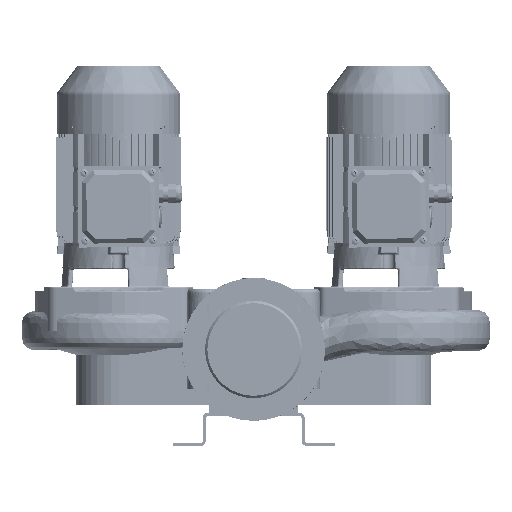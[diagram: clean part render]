
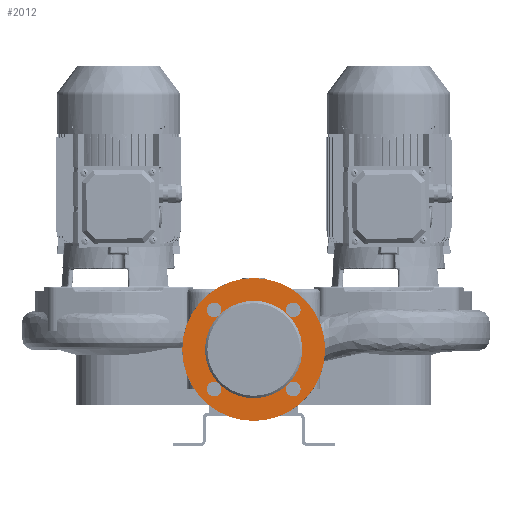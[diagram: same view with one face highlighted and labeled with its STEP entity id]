
A CAD part, front view. The second image highlights one B-rep face of the part: STEP entity #2012.
In plain terms, the highlighted planar face has unit normal (0, -1, 0) as drawn and (0, 1, 0) by its records, which use the part's own axes.
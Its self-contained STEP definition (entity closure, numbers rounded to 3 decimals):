
#2012=ADVANCED_FACE('',(#3863,#3864),#3865,.T.);
#2144=EDGE_CURVE('',#4088,#4089,#4090,.T.);
#2146=EDGE_CURVE('',#4092,#4088,#4093,.T.);
#2148=EDGE_CURVE('',#4095,#4092,#4096,.T.);
#2152=EDGE_CURVE('',#4102,#4103,#4104,.T.);
#2156=EDGE_CURVE('',#4110,#4111,#4112,.T.);
#2160=EDGE_CURVE('',#4118,#4119,#4120,.T.);
#2164=EDGE_CURVE('',#4126,#4127,#4128,.T.);
#2168=EDGE_CURVE('',#4134,#4135,#4136,.T.);
#2294=EDGE_CURVE('',#4135,#4134,#4328,.T.);
#2298=EDGE_CURVE('',#4092,#4126,#4332,.T.);
#2300=EDGE_CURVE('',#4127,#4092,#4334,.T.);
#2302=EDGE_CURVE('',#4088,#4118,#4336,.T.);
#2304=EDGE_CURVE('',#4119,#4088,#4338,.T.);
#2306=EDGE_CURVE('',#4340,#4110,#4341,.T.);
#2308=EDGE_CURVE('',#4111,#4340,#4343,.T.);
#2310=EDGE_CURVE('',#4345,#4102,#4346,.T.);
#2312=EDGE_CURVE('',#4103,#4345,#4348,.T.);
#2314=EDGE_CURVE('',#4089,#4340,#4350,.T.);
#2316=EDGE_CURVE('',#4340,#4345,#4352,.T.);
#2318=EDGE_CURVE('',#4345,#4095,#4354,.T.);
#3863=FACE_OUTER_BOUND('',#10396,.T.);
#3864=FACE_BOUND('',#10397,.T.);
#3865=PLANE('',#10398);
#4088=VERTEX_POINT('',#11303);
#4089=VERTEX_POINT('',#11304);
#4090=CIRCLE('',#11305,63.0);
#4092=VERTEX_POINT('',#11308);
#4093=CIRCLE('',#11309,63.0);
#4095=VERTEX_POINT('',#11312);
#4096=CIRCLE('',#11313,63.0);
#4102=VERTEX_POINT('',#11321);
#4103=VERTEX_POINT('',#11322);
#4104=CIRCLE('',#11323,9.5);
#4110=VERTEX_POINT('',#11331);
#4111=VERTEX_POINT('',#11332);
#4112=CIRCLE('',#11333,9.5);
#4118=VERTEX_POINT('',#11341);
#4119=VERTEX_POINT('',#11342);
#4120=CIRCLE('',#11343,9.5);
#4126=VERTEX_POINT('',#11351);
#4127=VERTEX_POINT('',#11352);
#4128=CIRCLE('',#11353,9.5);
#4134=VERTEX_POINT('',#11361);
#4135=VERTEX_POINT('',#11362);
#4136=CIRCLE('',#11363,92.5);
#4328=CIRCLE('',#11687,92.5);
#4332=CIRCLE('',#11693,9.5);
#4334=CIRCLE('',#11696,9.5);
#4336=CIRCLE('',#11699,9.5);
#4338=CIRCLE('',#11702,9.5);
#4340=VERTEX_POINT('',#11705);
#4341=CIRCLE('',#11706,9.5);
#4343=CIRCLE('',#11709,9.5);
#4345=VERTEX_POINT('',#11712);
#4346=CIRCLE('',#11713,9.5);
#4348=CIRCLE('',#11716,9.5);
#4350=CIRCLE('',#11719,63.0);
#4352=CIRCLE('',#11722,63.0);
#4354=CIRCLE('',#11725,63.0);
#10396=EDGE_LOOP('',(#19768,#19769));
#10397=EDGE_LOOP('',(#19770,#19771,#19772,#19773,#19774,#19775,#19776,#19777,#19778,#19779,#19780,#19781,#19782,#19783,#19784,#19785,#19786,#19787));
#10398=AXIS2_PLACEMENT_3D('',#19788,#19789,#19790);
#11303=CARTESIAN_POINT('',(44.548,217.,20.048));
#11304=CARTESIAN_POINT('',(0.,217.0,38.5));
#11305=AXIS2_PLACEMENT_3D('',#20270,#20271,#20272);
#11308=CARTESIAN_POINT('',(44.548,217.0,-69.048));
#11309=AXIS2_PLACEMENT_3D('',#20273,#20274,#20275);
#11312=CARTESIAN_POINT('',(0.,217.0,-87.5));
#11313=AXIS2_PLACEMENT_3D('',#20276,#20277,#20278);
#11321=CARTESIAN_POINT('',(-56.624,217.0,-67.921));
#11322=CARTESIAN_POINT('',(-45.906,217.0,-83.609));
#11323=AXIS2_PLACEMENT_3D('',#20282,#20283,#20284);
#11331=CARTESIAN_POINT('',(-43.421,217.,32.124));
#11332=CARTESIAN_POINT('',(-59.109,217.,21.406));
#11333=AXIS2_PLACEMENT_3D('',#20288,#20289,#20290);
#11341=CARTESIAN_POINT('',(56.624,217.,18.921));
#11342=CARTESIAN_POINT('',(45.906,217.,34.609));
#11343=AXIS2_PLACEMENT_3D('',#20294,#20295,#20296);
#11351=CARTESIAN_POINT('',(43.421,217.0,-81.124));
#11352=CARTESIAN_POINT('',(59.109,217.0,-70.406));
#11353=AXIS2_PLACEMENT_3D('',#20300,#20301,#20302);
#11361=CARTESIAN_POINT('',(0.,217.0,-117.0));
#11362=CARTESIAN_POINT('',(0.,217.0,68.0));
#11363=AXIS2_PLACEMENT_3D('',#20306,#20307,#20308);
#11687=AXIS2_PLACEMENT_3D('',#20442,#20443,#20444);
#11693=AXIS2_PLACEMENT_3D('',#20448,#20449,#20450);
#11696=AXIS2_PLACEMENT_3D('',#20451,#20452,#20453);
#11699=AXIS2_PLACEMENT_3D('',#20454,#20455,#20456);
#11702=AXIS2_PLACEMENT_3D('',#20457,#20458,#20459);
#11705=CARTESIAN_POINT('',(-44.548,217.,20.048));
#11706=AXIS2_PLACEMENT_3D('',#20460,#20461,#20462);
#11709=AXIS2_PLACEMENT_3D('',#20463,#20464,#20465);
#11712=CARTESIAN_POINT('',(-44.548,217.0,-69.048));
#11713=AXIS2_PLACEMENT_3D('',#20466,#20467,#20468);
#11716=AXIS2_PLACEMENT_3D('',#20469,#20470,#20471);
#11719=AXIS2_PLACEMENT_3D('',#20472,#20473,#20474);
#11722=AXIS2_PLACEMENT_3D('',#20475,#20476,#20477);
#11725=AXIS2_PLACEMENT_3D('',#20478,#20479,#20480);
#19768=ORIENTED_EDGE('',*,*,#2294,.F.);
#19769=ORIENTED_EDGE('',*,*,#2168,.F.);
#19770=ORIENTED_EDGE('',*,*,#2144,.T.);
#19771=ORIENTED_EDGE('',*,*,#2314,.T.);
#19772=ORIENTED_EDGE('',*,*,#2306,.T.);
#19773=ORIENTED_EDGE('',*,*,#2156,.T.);
#19774=ORIENTED_EDGE('',*,*,#2308,.T.);
#19775=ORIENTED_EDGE('',*,*,#2316,.T.);
#19776=ORIENTED_EDGE('',*,*,#2310,.T.);
#19777=ORIENTED_EDGE('',*,*,#2152,.T.);
#19778=ORIENTED_EDGE('',*,*,#2312,.T.);
#19779=ORIENTED_EDGE('',*,*,#2318,.T.);
#19780=ORIENTED_EDGE('',*,*,#2148,.T.);
#19781=ORIENTED_EDGE('',*,*,#2298,.T.);
#19782=ORIENTED_EDGE('',*,*,#2164,.T.);
#19783=ORIENTED_EDGE('',*,*,#2300,.T.);
#19784=ORIENTED_EDGE('',*,*,#2146,.T.);
#19785=ORIENTED_EDGE('',*,*,#2302,.T.);
#19786=ORIENTED_EDGE('',*,*,#2160,.T.);
#19787=ORIENTED_EDGE('',*,*,#2304,.T.);
#19788=CARTESIAN_POINT('',(0.,217.0,-102.25));
#19789=DIRECTION('',(0.0,1.0,0.0));
#19790=DIRECTION('',(0.0,0.0,1.0));
#20270=CARTESIAN_POINT('',(0.,217.0,-24.5));
#20271=DIRECTION('',(0.0,-1.0,0.0));
#20272=DIRECTION('',(0.0,0.0,-1.0));
#20273=CARTESIAN_POINT('',(0.,217.0,-24.5));
#20274=DIRECTION('',(0.0,-1.0,0.0));
#20275=DIRECTION('',(0.0,0.0,-1.0));
#20276=CARTESIAN_POINT('',(0.,217.0,-24.5));
#20277=DIRECTION('',(0.0,-1.0,0.0));
#20278=DIRECTION('',(0.0,0.0,-1.0));
#20282=CARTESIAN_POINT('',(-51.265,217.0,-75.765));
#20283=DIRECTION('',(0.0,-1.0,0.0));
#20284=DIRECTION('',(-0.564,0.0,0.826));
#20288=CARTESIAN_POINT('',(-51.265,217.,26.765));
#20289=DIRECTION('',(0.0,-1.0,0.0));
#20290=DIRECTION('',(0.826,0.0,0.564));
#20294=CARTESIAN_POINT('',(51.265,217.,26.765));
#20295=DIRECTION('',(0.0,-1.0,0.0));
#20296=DIRECTION('',(0.564,0.0,-0.826));
#20300=CARTESIAN_POINT('',(51.265,217.0,-75.765));
#20301=DIRECTION('',(0.0,-1.0,-0.0));
#20302=DIRECTION('',(-0.826,0.0,-0.564));
#20306=CARTESIAN_POINT('',(0.,217.0,-24.5));
#20307=DIRECTION('',(0.0,-1.0,0.0));
#20308=DIRECTION('',(0.0,0.0,-1.0));
#20442=CARTESIAN_POINT('',(0.,217.0,-24.5));
#20443=DIRECTION('',(0.0,-1.0,0.0));
#20444=DIRECTION('',(0.0,0.0,-1.0));
#20448=CARTESIAN_POINT('',(51.265,217.0,-75.765));
#20449=DIRECTION('',(0.0,-1.0,-0.0));
#20450=DIRECTION('',(-0.826,0.0,-0.564));
#20451=CARTESIAN_POINT('',(51.265,217.0,-75.765));
#20452=DIRECTION('',(0.0,-1.0,-0.0));
#20453=DIRECTION('',(-0.826,0.0,-0.564));
#20454=CARTESIAN_POINT('',(51.265,217.,26.765));
#20455=DIRECTION('',(0.0,-1.0,0.0));
#20456=DIRECTION('',(0.564,0.0,-0.826));
#20457=CARTESIAN_POINT('',(51.265,217.,26.765));
#20458=DIRECTION('',(0.0,-1.0,0.0));
#20459=DIRECTION('',(0.564,0.0,-0.826));
#20460=CARTESIAN_POINT('',(-51.265,217.,26.765));
#20461=DIRECTION('',(0.0,-1.0,0.0));
#20462=DIRECTION('',(0.826,0.0,0.564));
#20463=CARTESIAN_POINT('',(-51.265,217.,26.765));
#20464=DIRECTION('',(0.0,-1.0,0.0));
#20465=DIRECTION('',(0.826,0.0,0.564));
#20466=CARTESIAN_POINT('',(-51.265,217.0,-75.765));
#20467=DIRECTION('',(0.0,-1.0,0.0));
#20468=DIRECTION('',(-0.564,0.0,0.826));
#20469=CARTESIAN_POINT('',(-51.265,217.0,-75.765));
#20470=DIRECTION('',(0.0,-1.0,0.0));
#20471=DIRECTION('',(-0.564,0.0,0.826));
#20472=CARTESIAN_POINT('',(0.,217.0,-24.5));
#20473=DIRECTION('',(0.0,-1.0,0.0));
#20474=DIRECTION('',(0.0,0.0,-1.0));
#20475=CARTESIAN_POINT('',(0.,217.0,-24.5));
#20476=DIRECTION('',(0.0,-1.0,0.0));
#20477=DIRECTION('',(0.0,0.0,-1.0));
#20478=CARTESIAN_POINT('',(0.,217.0,-24.5));
#20479=DIRECTION('',(0.0,-1.0,0.0));
#20480=DIRECTION('',(0.0,0.0,-1.0));
